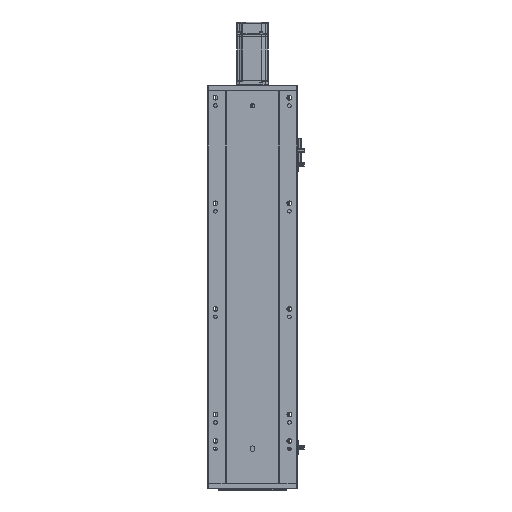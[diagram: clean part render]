
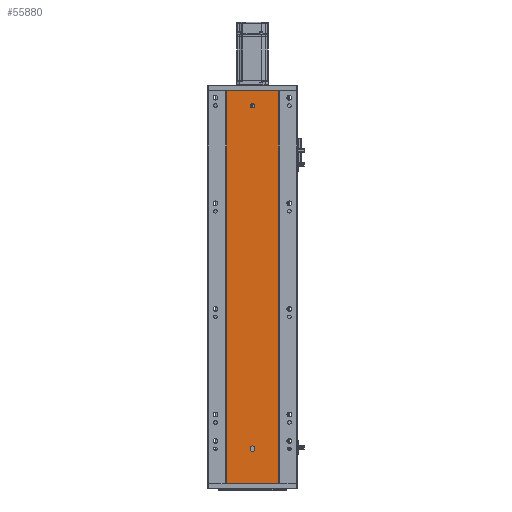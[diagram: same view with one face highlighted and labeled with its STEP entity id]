
A CAD part, front view. The second image highlights one B-rep face of the part: STEP entity #55880.
In plain terms, the highlighted planar face has unit normal (0, -1, 0).
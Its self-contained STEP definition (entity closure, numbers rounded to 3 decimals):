
#1802 = EDGE_CURVE ( 'NONE', #6359, #66273, #19162, .T. ) ;
#2029 = CARTESIAN_POINT ( 'NONE',  ( 140.47, 79.476, 67.5 ) ) ;
#2613 = DIRECTION ( 'NONE',  ( 0., -1., 0. ) ) ;
#3289 = CARTESIAN_POINT ( 'NONE',  ( 86.97, 79.476, 744. ) ) ;
#4049 = DIRECTION ( 'NONE',  ( 0., -1., 0. ) ) ;
#4451 = DIRECTION ( 'NONE',  ( 0., 0., -1. ) ) ;
#4594 = ORIENTED_EDGE ( 'NONE', *, *, #10571, .F. ) ;
#6359 = VERTEX_POINT ( 'NONE', #46743 ) ;
#6414 = EDGE_CURVE ( 'NONE', #54653, #11675, #10764, .T. ) ;
#6989 = EDGE_CURVE ( 'NONE', #11675, #18022, #18739, .T. ) ;
#7783 = VERTEX_POINT ( 'NONE', #58929 ) ;
#9003 = VERTEX_POINT ( 'NONE', #36231 ) ;
#10074 = CARTESIAN_POINT ( 'NONE',  ( 86.97, 79.476, 744. ) ) ;
#10293 = CARTESIAN_POINT ( 'NONE',  ( 86.97, 79.476, 496. ) ) ;
#10571 = EDGE_CURVE ( 'NONE', #9003, #18022, #17748, .T. ) ;
#10580 = ORIENTED_EDGE ( 'NONE', *, *, #37765, .F. ) ;
#10764 = B_SPLINE_CURVE_WITH_KNOTS ( 'NONE', 3,
 ( #10074, #10293, #15488, #46219 ),
 .UNSPECIFIED., .F., .F.,
 ( 4, 4 ),
 ( 0., 1. ),
 .UNSPECIFIED. ) ;
#11214 = DIRECTION ( 'NONE',  ( 1., 0., 0. ) ) ;
#11675 = VERTEX_POINT ( 'NONE', #54190 ) ;
#11934 = CARTESIAN_POINT ( 'NONE',  ( 136.47, 79.476, 720. ) ) ;
#12214 = EDGE_LOOP ( 'NONE', ( #45920, #39041, #56412, #55705, #17497 ) ) ;
#13220 = PLANE ( 'NONE',  #41668 ) ;
#13574 = FACE_OUTER_BOUND ( 'NONE', #37183, .T. ) ;
#14991 = CARTESIAN_POINT ( 'NONE',  ( 136.47, 79.476, 67.5 ) ) ;
#15264 = CARTESIAN_POINT ( 'NONE',  ( 136.47, 79.476, 712. ) ) ;
#15488 = CARTESIAN_POINT ( 'NONE',  ( 86.97, 79.476, 248. ) ) ;
#15963 = FACE_BOUND ( 'NONE', #12214, .T. ) ;
#17497 = ORIENTED_EDGE ( 'NONE', *, *, #44202, .F. ) ;
#17550 = CARTESIAN_POINT ( 'NONE',  ( 132.47, 79.476, 67.5 ) ) ;
#17748 = B_SPLINE_CURVE_WITH_KNOTS ( 'NONE', 3,
 ( #59717, #54128, #49202, #18093 ),
 .UNSPECIFIED., .F., .F.,
 ( 4, 4 ),
 ( 0., 1. ),
 .UNSPECIFIED. ) ;
#18022 = VERTEX_POINT ( 'NONE', #38775 ) ;
#18093 = CARTESIAN_POINT ( 'NONE',  ( 185.97, 79.476, 0. ) ) ;
#18202 = CARTESIAN_POINT ( 'NONE',  ( 136.47, 79.476, 64.5 ) ) ;
#18534 = CIRCLE ( 'NONE', #20248, 4. ) ;
#18739 = LINE ( 'NONE', #34058, #49985 ) ;
#19162 = CIRCLE ( 'NONE', #54898, 4. ) ;
#20248 = AXIS2_PLACEMENT_3D ( 'NONE', #24707, #4049, #65478 ) ;
#20792 = EDGE_CURVE ( 'NONE', #7783, #22467, #21235, .T. ) ;
#20893 = CARTESIAN_POINT ( 'NONE',  ( 136.47, 79.476, 716. ) ) ;
#21235 = CIRCLE ( 'NONE', #47126, 4. ) ;
#21953 = VECTOR ( 'NONE', #11214, 1000. ) ;
#22467 = VERTEX_POINT ( 'NONE', #41045 ) ;
#23024 = CARTESIAN_POINT ( 'NONE',  ( 136.47, 79.476, 64.5 ) ) ;
#23119 = DIRECTION ( 'NONE',  ( 0., -1., 0. ) ) ;
#23994 = CARTESIAN_POINT ( 'NONE',  ( 0., 79.476, 744. ) ) ;
#24112 = EDGE_CURVE ( 'NONE', #22467, #6359, #62102, .T. ) ;
#24514 = CIRCLE ( 'NONE', #45565, 4. ) ;
#24707 = CARTESIAN_POINT ( 'NONE',  ( 136.47, 79.476, 716. ) ) ;
#25025 = CARTESIAN_POINT ( 'NONE',  ( 136.47, 79.476, 60.5 ) ) ;
#25818 = DIRECTION ( 'NONE',  ( 0., 0., -1. ) ) ;
#25893 = VERTEX_POINT ( 'NONE', #11934 ) ;
#26239 = EDGE_CURVE ( 'NONE', #25893, #62266, #18534, .T. ) ;
#27456 = LINE ( 'NONE', #2029, #60267 ) ;
#28394 = CARTESIAN_POINT ( 'NONE',  ( 140.47, 79.476, 64.5 ) ) ;
#29367 = AXIS2_PLACEMENT_3D ( 'NONE', #20893, #46908, #25818 ) ;
#29604 = FACE_BOUND ( 'NONE', #44579, .T. ) ;
#31723 = EDGE_CURVE ( 'NONE', #44850, #7783, #27456, .T. ) ;
#32581 = DIRECTION ( 'NONE',  ( 0., 0., 1. ) ) ;
#32633 = ORIENTED_EDGE ( 'NONE', *, *, #6414, .T. ) ;
#33807 = ORIENTED_EDGE ( 'NONE', *, *, #53210, .F. ) ;
#33813 = DIRECTION ( 'NONE',  ( 0., 0., -1. ) ) ;
#34058 = CARTESIAN_POINT ( 'NONE',  ( 0., 79.476, 0. ) ) ;
#36231 = CARTESIAN_POINT ( 'NONE',  ( 185.97, 79.476, 744. ) ) ;
#37183 = EDGE_LOOP ( 'NONE', ( #54059, #4594, #33807, #32633 ) ) ;
#37765 = EDGE_CURVE ( 'NONE', #62266, #25893, #58599, .T. ) ;
#37925 = ORIENTED_EDGE ( 'NONE', *, *, #26239, .F. ) ;
#38775 = CARTESIAN_POINT ( 'NONE',  ( 185.97, 79.476, 0. ) ) ;
#39041 = ORIENTED_EDGE ( 'NONE', *, *, #24112, .F. ) ;
#41045 = CARTESIAN_POINT ( 'NONE',  ( 132.47, 79.476, 67.5 ) ) ;
#41668 = AXIS2_PLACEMENT_3D ( 'NONE', #23994, #59817, #64314 ) ;
#44202 = EDGE_CURVE ( 'NONE', #66273, #44850, #24514, .T. ) ;
#44579 = EDGE_LOOP ( 'NONE', ( #10580, #37925 ) ) ;
#44850 = VERTEX_POINT ( 'NONE', #28394 ) ;
#45565 = AXIS2_PLACEMENT_3D ( 'NONE', #18202, #23119, #54010 ) ;
#45920 = ORIENTED_EDGE ( 'NONE', *, *, #1802, .F. ) ;
#46219 = CARTESIAN_POINT ( 'NONE',  ( 86.97, 79.476, 0. ) ) ;
#46466 = CARTESIAN_POINT ( 'NONE',  ( 0., 79.476, 744. ) ) ;
#46743 = CARTESIAN_POINT ( 'NONE',  ( 132.47, 79.476, 64.5 ) ) ;
#46902 = VECTOR ( 'NONE', #53367, 1000. ) ;
#46908 = DIRECTION ( 'NONE',  ( 0., -1., 0. ) ) ;
#47126 = AXIS2_PLACEMENT_3D ( 'NONE', #14991, #55787, #4451 ) ;
#49202 = CARTESIAN_POINT ( 'NONE',  ( 185.97, 79.476, 248. ) ) ;
#49985 = VECTOR ( 'NONE', #58907, 1000. ) ;
#53210 = EDGE_CURVE ( 'NONE', #54653, #9003, #56402, .T. ) ;
#53367 = DIRECTION ( 'NONE',  ( 0., 0., -1. ) ) ;
#54010 = DIRECTION ( 'NONE',  ( 0., 0., -1. ) ) ;
#54059 = ORIENTED_EDGE ( 'NONE', *, *, #6989, .T. ) ;
#54128 = CARTESIAN_POINT ( 'NONE',  ( 185.97, 79.476, 496. ) ) ;
#54190 = CARTESIAN_POINT ( 'NONE',  ( 86.97, 79.476, 0. ) ) ;
#54653 = VERTEX_POINT ( 'NONE', #3289 ) ;
#54898 = AXIS2_PLACEMENT_3D ( 'NONE', #23024, #2613, #33813 ) ;
#55705 = ORIENTED_EDGE ( 'NONE', *, *, #31723, .F. ) ;
#55787 = DIRECTION ( 'NONE',  ( 0., -1., 0. ) ) ;
#55880 = ADVANCED_FACE ( 'NONE', ( #15963, #29604, #13574 ), #13220, .F. ) ;
#56402 = LINE ( 'NONE', #46466, #21953 ) ;
#56412 = ORIENTED_EDGE ( 'NONE', *, *, #20792, .F. ) ;
#58599 = CIRCLE ( 'NONE', #29367, 4. ) ;
#58907 = DIRECTION ( 'NONE',  ( 1., 0., 0. ) ) ;
#58929 = CARTESIAN_POINT ( 'NONE',  ( 140.47, 79.476, 67.5 ) ) ;
#59717 = CARTESIAN_POINT ( 'NONE',  ( 185.97, 79.476, 744. ) ) ;
#59817 = DIRECTION ( 'NONE',  ( 0., 1., 0. ) ) ;
#60267 = VECTOR ( 'NONE', #32581, 1000. ) ;
#62102 = LINE ( 'NONE', #17550, #46902 ) ;
#62266 = VERTEX_POINT ( 'NONE', #15264 ) ;
#64314 = DIRECTION ( 'NONE',  ( 0., 0., 1. ) ) ;
#65478 = DIRECTION ( 'NONE',  ( 0., 0., -1. ) ) ;
#66273 = VERTEX_POINT ( 'NONE', #25025 ) ;
